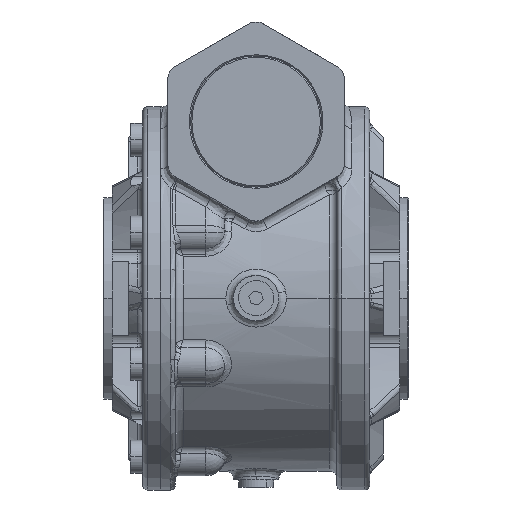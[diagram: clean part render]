
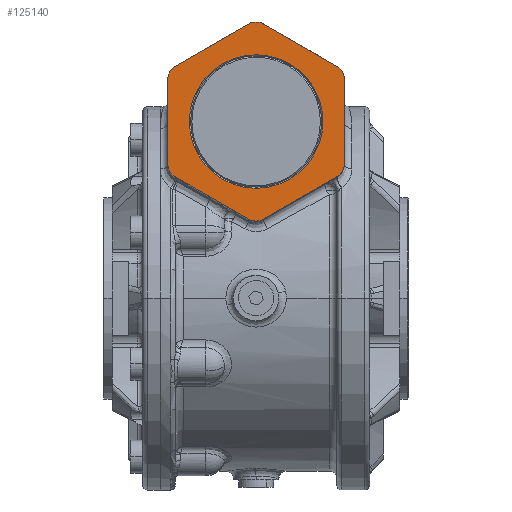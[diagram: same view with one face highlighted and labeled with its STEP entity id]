
A CAD part, top view. The second image highlights one B-rep face of the part: STEP entity #125140.
In plain terms, the highlighted planar face has unit normal (0, 0, 1).
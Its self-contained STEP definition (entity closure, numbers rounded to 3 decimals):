
#73830 = CARTESIAN_POINT ( 'NONE',  ( 26.5, 0., 81. ) ) ;
#73832 = DIRECTION ( 'NONE',  ( 1., 0., 0. ) ) ;
#73835 = DIRECTION ( 'NONE',  ( 0., 0., -1. ) ) ;
#73837 = CARTESIAN_POINT ( 'NONE',  ( 0., 0., 81. ) ) ;
#73839 = AXIS2_PLACEMENT_3D ( 'NONE', #73837, #73835, #73832 ) ;
#73842 = CIRCLE ( 'NONE', #73839, 26.5 ) ;
#73850 = CARTESIAN_POINT ( 'NONE',  ( -26.5, 0., 81. ) ) ;
#98945 = DIRECTION ( 'NONE',  ( 0., -1., 0. ) ) ;
#98946 = VECTOR ( 'NONE', #98945, 1000. ) ;
#98947 = CARTESIAN_POINT ( 'NONE',  ( -35., 16.743, 81. ) ) ;
#98948 = LINE ( 'NONE', #98947, #98946 ) ;
#98949 = CARTESIAN_POINT ( 'NONE',  ( -35., 16.743, 81. ) ) ;
#98950 = CARTESIAN_POINT ( 'NONE',  ( -32., 21.939, 81. ) ) ;
#98951 = DIRECTION ( 'NONE',  ( -1., 0., 0. ) ) ;
#98952 = DIRECTION ( 'NONE',  ( 0., 0., 1. ) ) ;
#98953 = CARTESIAN_POINT ( 'NONE',  ( 0., 33.486, 81. ) ) ;
#98954 = AXIS2_PLACEMENT_3D ( 'NONE', #98953, #98952, #98951 ) ;
#98955 = CIRCLE ( 'NONE', #98954, 6. ) ;
#98957 = CARTESIAN_POINT ( 'NONE',  ( 3., 38.682, 81. ) ) ;
#98958 = DIRECTION ( 'NONE',  ( -0.866, 0.5, 0. ) ) ;
#98959 = VECTOR ( 'NONE', #98958, 1000. ) ;
#98960 = CARTESIAN_POINT ( 'NONE',  ( 32., 21.939, 81. ) ) ;
#98961 = LINE ( 'NONE', #98960, #98959 ) ;
#98962 = CARTESIAN_POINT ( 'NONE',  ( 32., 21.939, 81. ) ) ;
#98963 = DIRECTION ( 'NONE',  ( 1., 0., 0. ) ) ;
#98964 = DIRECTION ( 'NONE',  ( 0., 0., 1. ) ) ;
#98965 = CARTESIAN_POINT ( 'NONE',  ( 29., 16.743, 81. ) ) ;
#98966 = AXIS2_PLACEMENT_3D ( 'NONE', #98965, #98964, #98963 ) ;
#98967 = CIRCLE ( 'NONE', #98966, 6. ) ;
#98968 = CARTESIAN_POINT ( 'NONE',  ( 35., 16.743, 81. ) ) ;
#98969 = DIRECTION ( 'NONE',  ( 0., 1., 0. ) ) ;
#98970 = VECTOR ( 'NONE', #98969, 1000. ) ;
#98971 = CARTESIAN_POINT ( 'NONE',  ( 35., -16.743, 81. ) ) ;
#98972 = LINE ( 'NONE', #98971, #98970 ) ;
#98973 = CARTESIAN_POINT ( 'NONE',  ( 35., -16.743, 81. ) ) ;
#98983 = FACE_BOUND ( 'NONE', #125143, .T. ) ;
#98985 = FACE_OUTER_BOUND ( 'NONE', #125152, .T. ) ;
#98991 = CARTESIAN_POINT ( 'NONE',  ( 3., -38.682, 81. ) ) ;
#98992 = DIRECTION ( 'NONE',  ( 1., 0., 0. ) ) ;
#98993 = DIRECTION ( 'NONE',  ( 0., 0., 1. ) ) ;
#98994 = CARTESIAN_POINT ( 'NONE',  ( 0., -33.486, 81. ) ) ;
#98995 = AXIS2_PLACEMENT_3D ( 'NONE', #98994, #98993, #98992 ) ;
#98996 = CIRCLE ( 'NONE', #98995, 6. ) ;
#98997 = CARTESIAN_POINT ( 'NONE',  ( -3., -38.682, 81. ) ) ;
#98998 = DIRECTION ( 'NONE',  ( 0.866, -0.5, 0. ) ) ;
#98999 = VECTOR ( 'NONE', #98998, 1000. ) ;
#99000 = CARTESIAN_POINT ( 'NONE',  ( -32., -21.939, 81. ) ) ;
#99001 = LINE ( 'NONE', #99000, #98999 ) ;
#99002 = CARTESIAN_POINT ( 'NONE',  ( -32., -21.939, 81. ) ) ;
#99003 = DIRECTION ( 'NONE',  ( 1., 0., 0. ) ) ;
#99004 = DIRECTION ( 'NONE',  ( 0., 0., 1. ) ) ;
#99005 = CARTESIAN_POINT ( 'NONE',  ( -29., -16.743, 81. ) ) ;
#99006 = AXIS2_PLACEMENT_3D ( 'NONE', #99005, #99004, #99003 ) ;
#99007 = CIRCLE ( 'NONE', #99006, 6. ) ;
#99008 = CARTESIAN_POINT ( 'NONE',  ( -35., -16.743, 81. ) ) ;
#99009 = CARTESIAN_POINT ( 'NONE',  ( -29., 16.743, 81. ) ) ;
#99010 = AXIS2_PLACEMENT_3D ( 'NONE', #99009, #99036, #99035 ) ;
#99011 = PLANE ( 'NONE',  #99010 ) ;
#99031 = DIRECTION ( 'NONE',  ( 0., 0., -1. ) ) ;
#99032 = CARTESIAN_POINT ( 'NONE',  ( 0., 0., 81. ) ) ;
#99033 = AXIS2_PLACEMENT_3D ( 'NONE', #99032, #99031, #99083 ) ;
#99034 = CIRCLE ( 'NONE', #99033, 26.5 ) ;
#99035 = DIRECTION ( 'NONE',  ( 1., 0., 0. ) ) ;
#99036 = DIRECTION ( 'NONE',  ( 0., 0., 1. ) ) ;
#99078 = DIRECTION ( 'NONE',  ( 1., 0., 0. ) ) ;
#99079 = DIRECTION ( 'NONE',  ( 0., 0., 1. ) ) ;
#99080 = CARTESIAN_POINT ( 'NONE',  ( -29., 16.743, 81. ) ) ;
#99081 = AXIS2_PLACEMENT_3D ( 'NONE', #99080, #99079, #99078 ) ;
#99082 = CIRCLE ( 'NONE', #99081, 6. ) ;
#99083 = DIRECTION ( 'NONE',  ( 1., 0., 0. ) ) ;
#99084 = CARTESIAN_POINT ( 'NONE',  ( -3., 38.682, 81. ) ) ;
#99142 = DIRECTION ( 'NONE',  ( -0.866, -0.5, 0. ) ) ;
#99143 = VECTOR ( 'NONE', #99142, 1000. ) ;
#99144 = CARTESIAN_POINT ( 'NONE',  ( -3., 38.682, 81. ) ) ;
#99145 = LINE ( 'NONE', #99144, #99143 ) ;
#99163 = DIRECTION ( 'NONE',  ( 1., 0., 0. ) ) ;
#99164 = DIRECTION ( 'NONE',  ( 0., 0., 1. ) ) ;
#99165 = CARTESIAN_POINT ( 'NONE',  ( 29., -16.743, 81. ) ) ;
#99166 = AXIS2_PLACEMENT_3D ( 'NONE', #99165, #99164, #99163 ) ;
#99167 = CIRCLE ( 'NONE', #99166, 6. ) ;
#99168 = CARTESIAN_POINT ( 'NONE',  ( 32., -21.939, 81. ) ) ;
#99169 = DIRECTION ( 'NONE',  ( 0.866, 0.5, 0. ) ) ;
#99170 = VECTOR ( 'NONE', #99169, 1000. ) ;
#99171 = CARTESIAN_POINT ( 'NONE',  ( 3., -38.682, 81. ) ) ;
#99172 = LINE ( 'NONE', #99171, #99170 ) ;
#118958 = VERTEX_POINT ( 'NONE', #73850 ) ;
#118960 = EDGE_CURVE ( 'NONE', #118961, #118958, #73842, .T. ) ;
#118961 = VERTEX_POINT ( 'NONE', #73830 ) ;
#125075 = VERTEX_POINT ( 'NONE', #98973 ) ;
#125077 = ORIENTED_EDGE ( 'NONE', *, *, #125079, .T. ) ;
#125079 = EDGE_CURVE ( 'NONE', #125075, #125081, #98972, .T. ) ;
#125081 = VERTEX_POINT ( 'NONE', #98968 ) ;
#125083 = ORIENTED_EDGE ( 'NONE', *, *, #125085, .T. ) ;
#125085 = EDGE_CURVE ( 'NONE', #125081, #125088, #98967, .T. ) ;
#125088 = VERTEX_POINT ( 'NONE', #98962 ) ;
#125090 = ORIENTED_EDGE ( 'NONE', *, *, #125091, .T. ) ;
#125091 = EDGE_CURVE ( 'NONE', #125088, #125093, #98961, .T. ) ;
#125093 = VERTEX_POINT ( 'NONE', #98957 ) ;
#125095 = ORIENTED_EDGE ( 'NONE', *, *, #125097, .T. ) ;
#125097 = EDGE_CURVE ( 'NONE', #125093, #125214, #98955, .T. ) ;
#125099 = VERTEX_POINT ( 'NONE', #98950 ) ;
#125101 = VERTEX_POINT ( 'NONE', #98949 ) ;
#125103 = ORIENTED_EDGE ( 'NONE', *, *, #125105, .T. ) ;
#125105 = EDGE_CURVE ( 'NONE', #125101, #125107, #98948, .T. ) ;
#125107 = VERTEX_POINT ( 'NONE', #99008 ) ;
#125109 = ORIENTED_EDGE ( 'NONE', *, *, #125111, .T. ) ;
#125111 = EDGE_CURVE ( 'NONE', #125107, #125114, #99007, .T. ) ;
#125114 = VERTEX_POINT ( 'NONE', #99002 ) ;
#125116 = ORIENTED_EDGE ( 'NONE', *, *, #125118, .T. ) ;
#125118 = EDGE_CURVE ( 'NONE', #125114, #125120, #99001, .T. ) ;
#125120 = VERTEX_POINT ( 'NONE', #98997 ) ;
#125122 = ORIENTED_EDGE ( 'NONE', *, *, #125124, .T. ) ;
#125124 = EDGE_CURVE ( 'NONE', #125120, #125126, #98996, .T. ) ;
#125126 = VERTEX_POINT ( 'NONE', #98991 ) ;
#125128 = ORIENTED_EDGE ( 'NONE', *, *, #125238, .T. ) ;
#125140 = ADVANCED_FACE ( 'NONE', ( #98983, #98985 ), #99011, .T. ) ;
#125143 = EDGE_LOOP ( 'NONE', ( #125145, #125147 ) ) ;
#125145 = ORIENTED_EDGE ( 'NONE', *, *, #118960, .T. ) ;
#125147 = ORIENTED_EDGE ( 'NONE', *, *, #125149, .T. ) ;
#125149 = EDGE_CURVE ( 'NONE', #118958, #118961, #99034, .T. ) ;
#125152 = EDGE_LOOP ( 'NONE', ( #125154, #125103, #125109, #125116, #125122, #125128, #125241, #125077, #125083, #125090, #125095, #125215 ) ) ;
#125154 = ORIENTED_EDGE ( 'NONE', *, *, #125156, .T. ) ;
#125156 = EDGE_CURVE ( 'NONE', #125099, #125101, #99082, .T. ) ;
#125214 = VERTEX_POINT ( 'NONE', #99084 ) ;
#125215 = ORIENTED_EDGE ( 'NONE', *, *, #125216, .T. ) ;
#125216 = EDGE_CURVE ( 'NONE', #125214, #125099, #99145, .T. ) ;
#125238 = EDGE_CURVE ( 'NONE', #125126, #125240, #99172, .T. ) ;
#125240 = VERTEX_POINT ( 'NONE', #99168 ) ;
#125241 = ORIENTED_EDGE ( 'NONE', *, *, #125242, .T. ) ;
#125242 = EDGE_CURVE ( 'NONE', #125240, #125075, #99167, .T. ) ;
